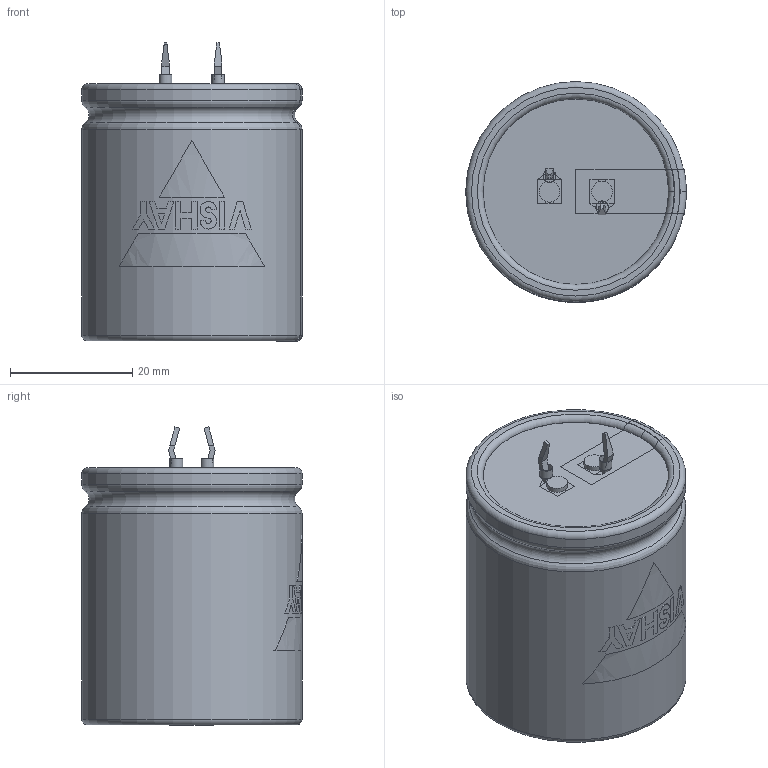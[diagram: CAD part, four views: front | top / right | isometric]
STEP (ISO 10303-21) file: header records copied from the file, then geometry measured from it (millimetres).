
FILE_DESCRIPTION(('FreeCAD Model'),'2;1');
FILE_NAME( 'C:/Users/Gebruiker/Documents/FreeCAD/SnapIn_35x40_2pin_5.8.step', '2020-11-12T20:39:18',('Author'),(''), 'Open CASCADE STEP processor 6.8','FreeCAD','Unknown');
FILE_SCHEMA(('AUTOMOTIVE_DESIGN_CC2 { 1 2 10303 214 -1 1 5 4 }'));
Length unit declared in the file: millimetre
Products named in the file (9): ASSEMBLY; TerminalMin; TerminalPlus; PCBHoles; Disc; BottomInsulation; Can3D; InkMinusBar; InkLogo
Assembly tree (8 placements, depth 2):
  ASSEMBLY
    TerminalMin
    TerminalPlus
    PCBHoles
    Disc
    BottomInsulation
    Can3D
    InkMinusBar
    InkLogo
Bounding box: 36.05 x 36.05 x 48.75 mm (x, y, z)
Volume: 49032.6 mm3; surface area: 17098.5 mm2
Topology: 16 solids, 16 shells, 188 faces, 457 edges, 299 vertices
Faces by surface type: plane 141, cylinder 29, torus 18
Full cylindrical faces by diameter (mm): 2 x2, 2.1 x2, 3.4 x2, 28.8 x2, 30.3 x1, 36 x2
Entity records: 19335 total; most frequent: CARTESIAN_POINT 9033, DIRECTION 1618, ORIENTED_EDGE 914, PCURVE 914, DEFINITIONAL_REPRESENTATION 914, LINE 895, VECTOR 895, EDGE_CURVE 457
